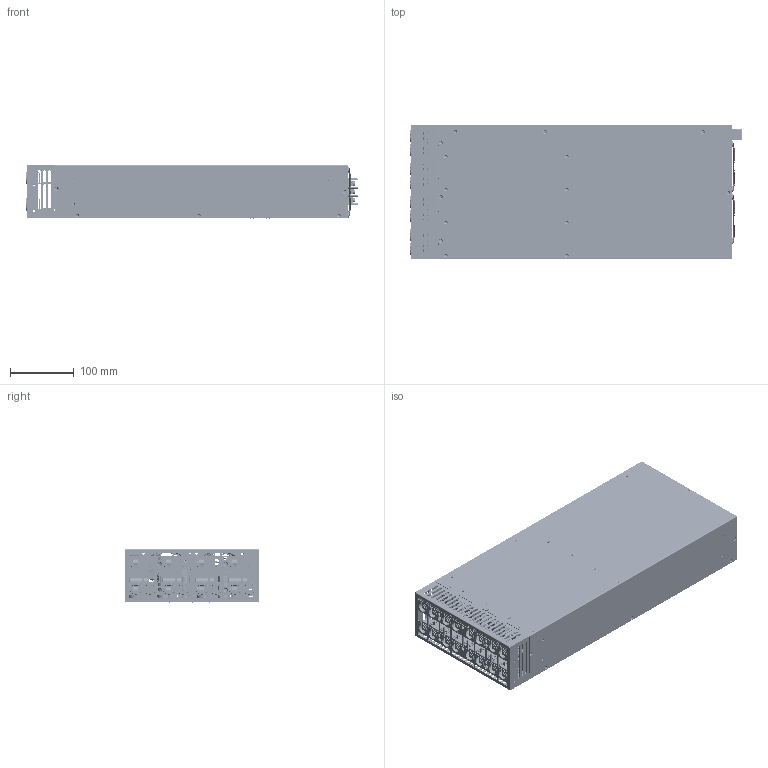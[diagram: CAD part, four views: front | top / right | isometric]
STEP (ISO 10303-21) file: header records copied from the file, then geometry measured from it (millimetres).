
FILE_DESCRIPTION(('Creo Elements/Direct Modeling STEP Export'),'2;1');
FILE_NAME('ERG-50003D.stp','2023-07-05T11:51:40',(''),(''),'PTC Creo Elements/Direct Modeling STEP processor for AP214 (Solid Model)','PTC Creo Elements/Direct Modeling 19.0 09-May-2014 (C) Parametric Technology GmbH','');
FILE_SCHEMA(('AUTOMOTIVE_DESIGN { 1 0 10303 214 1 1 1 1 }'));
Length unit declared in the file: millimetre
Products named in the file (101): _X2_77FD81A07247_X0_.PRT; _X2_02CB_X0_T_X2_02CB_X0_W_-392.ASM; _X2_02CB_X0_T_X2_02CB_X0_W.ASM; _S_N_S_M_S_J_S__2-2212.ASM; _S_N_S_M_S_J_S__1.ASM; _S___X2_25A0_X0__S___S_Q_1-3258.PRT; _S___X2_25A0_X0__S___S_Q_1-3219.ASM; _S___X2_25A0_X0__S___S_Q_1-3565.ASM; WW-3667.PRT; WW-3628.ASM; P5-3924.ASM; P4.PRT; P3.PRT; P2-10067.PRT; P2-10028.ASM; P1-10669.PRT; P1-10630.ASM; P1_1-11250.ASM; M1.PRT; M1_1.PRT; M1_2.PRT; M1_3.PRT; PCB.PRT; P3_1-12591.PRT; A3-12552.ASM; A4.ASM; A4_1.ASM; A4_2.ASM; P6.PRT.1; M3-7L_1_2.PRT.11; _X2_4E0B84CB_X0_.ASM; L.PRT.1; _X2_7D445408_X0_101.ASM; _X2_4E0A84CB_X0_.ASM; PCB_1.PRT; _X2_92C157FA677F_X0_A.ASM; PCB_1_1.PRT; _X2_92C157FA677F_X0_A_1.ASM; PIN_1.PRT; P1_1-30441.PRT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
Assembly tree (167 placements, depth 7):
  ERG-5000.stp
    p1.2  x16
    a1.1
      SYB-1316C_______.step
        SYB-1316C_______.prt.1.1.1  x8
    a1
      SYB-1316C_______.step
        SYB-1316C_______.prt.1.1  x8
    p2
    B-0107.ASM
      22_1-79154.ASM
        22-79193.PRT
      22-79091.ASM
        22_1_1-77644.PRT
      22-79028.ASM
        22_1_1-77644.PRT
      22_1-78965.ASM
        22_1_1-77644.PRT
      22_1_1-77605.ASM
        22_1_1-77644.PRT
      C_X2_02C6_X0_O.ASM
        JJ.PRT
        DD_1_2.PRT
        11.PRT
      EEE-72430.ASM
        EEE_1.PRT
      FAN_71_2-72367.ASM
        FAN_71_2-53834.ASM
          FAN_71.2.1.1.1
            SW3dPS-Fan Guard.STEP
              FADEFAU050264352885
            fan_3110kl_04w_b50
            FAN
      FAN_71_2_1.ASM
        FAN_71_2-53834.ASM
          FAN_71.2.1.1.1
            SW3dPS-Fan Guard.STEP
              FADEFAU050264352885
            fan_3110kl_04w_b50
            FAN
      FRP.PRT
      STANDARD.ASM
        9727R_PCB.ASM
          PHONE_JACK_1.PRT
      A1.ASM
        _X2_4E3B_X0_PCB.PRT
        33_1.PRT
        EEE-49838.PRT
        33.PRT
        33_2.PRT  x2
        DD_3.PRT
        DD_2.PRT
        DD_1.PRT
        DD.PRT
        55_1.PRT  x4
        DDD_1_1_1.PRT  x4
        A2_1.ASM
          MOSTO3P.PRT  x8
      A2.ASM
        A3_1.ASM
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Bounding box: 521.14 x 211 x 83.88 mm (x, y, z)
Volume: 1851353.6 mm3; surface area: 2250655.1 mm2
Topology: 168 solids, 170 shells, 7366 faces, 19444 edges, 12519 vertices
Faces by surface type: plane 3582, cylinder 2662, torus 422, cone 342, bspline 206, sphere 128, revolution 24
Entity records: 105614 total; most frequent: CARTESIAN_POINT 28669, ORIENTED_EDGE 15592, DIRECTION 14477, EDGE_CURVE 7800, VERTEX_POINT 5080, AXIS2_PLACEMENT_3D 5010, VECTOR 4445, LINE 4445
